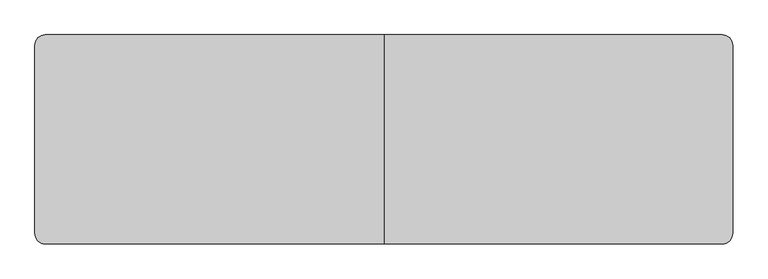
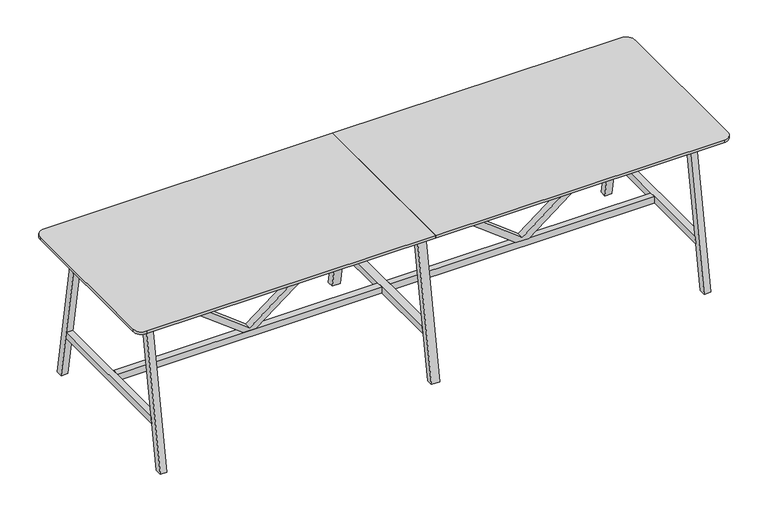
"""IFC4 building model written with IfcOpenShell, lengths in millimetres: furniture geometry, BDG_BossDesign_Tbls_AgentTables6Legs : AGE-HT-6L-4000-1200-3D."""

from ifc_helpers import new_model, si_unit, point, frame, frame_2d, origin, place, context, project, spatial, polyline, circle_curve, trimmed, segment, composite_curve, outline, extrude, source, transform, mapped, element, save


def furniture_0215ca8e(model_context):
    return source(origin(), model_context, "Body", "SweptSolid", [
        extrude(outline(polyline([(345.0, 874.0823957), (345.0, 958.4176043), (992.0, 1805.0), (1032.0, 1805.0), (1032.0, 1785.0), (365.0, 916.25), (1032.0, 47.5), (1032.0, 27.5), (992.0, 27.5), (345.0, 874.0823957)])), frame((0.0, -22.5000305, 0.0), z_axis=(0.0, 1.0, 0.0), x_axis=(0.0, 0.0, 1.0)), (0.0, 0.0, 1.0), 45.000061),
        extrude(outline(polyline([(345.0, -874.0823957), (992.0, -27.5), (1032.0, -27.5), (1032.0, -47.5), (365.0, -916.25), (1032.0, -1785.0), (1032.0, -1805.0), (992.0, -1805.0), (345.0, -958.4176043), (345.0, -874.0823957)])), frame((0.0, -22.5000305, 0.0), z_axis=(0.0, 1.0, 0.0), x_axis=(0.0, 0.0, 1.0)), (0.0, 0.0, 1.0), 45.000061),
        extrude(outline(polyline([(600.0, 0.0), (554.9999949, 0.0), (385.5, 970.0), (430.5000051, 970.0), (600.0, 0.0)])), frame((-27.5, 0.0, 0.0), z_axis=(1.0, 0.0, 0.0), x_axis=(0.0, 1.0, 0.0)), (0.0, 0.0, 1.0), 55.0),
        extrude(outline(polyline([(-600.0, 0.0), (-430.5000051, 970.0), (-385.5, 970.0), (-554.9999949, 0.0), (-600.0, 0.0)])), frame((-27.5, 0.0, 0.0), z_axis=(1.0, 0.0, 0.0), x_axis=(0.0, 1.0, 0.0)), (0.0, 0.0, 1.0), 55.0),
        extrude(outline(polyline([(502.5773161, 300.0), (-502.5773161, 300.0), (-494.7139143, 345.0), (494.7139143, 345.0), (502.5773161, 300.0)])), frame((-27.5, 0.0, 0.0), z_axis=(1.0, 0.0, 0.0), x_axis=(0.0, 1.0, 0.0)), (0.0, 0.0, 1.0), 55.0),
        extrude(outline(composite_curve([segment(polyline([(0.0, 600.0), (0.0, -600.0), (-1940.0, -600.0)]), True, "CONTINUOUS"), segment(trimmed(circle_curve(frame_2d((-1940.0, -540.0)), 60.0), [point((-1940.0, -600.0))], [point((-2000.0, -540.0))], False, "CARTESIAN"), True, "CONTINUOUS"), segment(polyline([(-2000.0, -540.0), (-2000.0, 540.0)]), True, "CONTINUOUS"), segment(trimmed(circle_curve(frame_2d((-1940.0, 540.0)), 60.0), [point((-2000.0, 540.0))], [point((-1940.0, 600.0))], False, "CARTESIAN"), True, "CONTINUOUS"), segment(polyline([(-1940.0, 600.0), (0.0, 600.0)]), True, "CONTINUOUS")], self_intersect=False)), frame((0.0, 0.0, 1032.0), z_axis=(0.0, 0.0, 1.0), x_axis=(1.0, 0.0, 0.0)), (0.0, 0.0, 1.0), 18.0),
        extrude(outline(polyline([(-494.7139143, 345.0), (494.7139143, 345.0), (502.5773161, 300.0), (-502.5773161, 300.0), (-494.7139143, 345.0)])), frame((1805.0, 0.0, 0.0), z_axis=(1.0, 0.0, 0.0), x_axis=(0.0, 1.0, 0.0)), (0.0, 0.0, 1.0), 45.0),
        extrude(outline(polyline([(600.0, 0.0), (554.9999949, 0.0), (385.5, 970.0), (430.5000051, 970.0), (600.0, 0.0)])), frame((-1850.0, 0.0, 0.0), z_axis=(1.0, 0.0, 0.0), x_axis=(0.0, 1.0, 0.0)), (0.0, 0.0, 1.0), 45.0),
        extrude(outline(polyline([(-600.0, 0.0), (-430.5000051, 970.0), (-385.5, 970.0), (-554.9999949, 0.0), (-600.0, 0.0)])), frame((-1850.0, 0.0, 0.0), z_axis=(1.0, 0.0, 0.0), x_axis=(0.0, 1.0, 0.0)), (0.0, 0.0, 1.0), 45.0),
        extrude(outline(polyline([(-494.7139143, 345.0), (494.7139143, 345.0), (502.5773161, 300.0), (-502.5773161, 300.0), (-494.7139143, 345.0)])), frame((-1850.0, 0.0, 0.0), z_axis=(1.0, 0.0, 0.0), x_axis=(0.0, 1.0, 0.0)), (0.0, 0.0, 1.0), 45.0),
        extrude(outline(polyline([(-426.6006165, 944.973938), (-404.2770691, 1032.0), (-379.5, 1032.0), (-401.8235474, 944.973938), (-426.6006165, 944.973938)])), frame((-1805.0, 0.0, 0.0), z_axis=(1.0, 0.0, 0.0), x_axis=(0.0, 1.0, 0.0)), (0.0, 0.0, 1.0), 3610.0),
        extrude(outline(polyline([(426.6006165, 944.973938), (401.8235474, 944.973938), (379.5, 1032.0), (404.2770691, 1032.0), (426.6006165, 944.973938)])), frame((-1805.0, 0.0, 0.0), z_axis=(1.0, 0.0, 0.0), x_axis=(0.0, 1.0, 0.0)), (0.0, 0.0, 1.0), 3610.0),
        extrude(outline(polyline([(599.7999878, 0.0), (554.7999827, 0.0), (385.5, 970.0), (430.5000051, 970.0), (599.7999878, 0.0)])), frame((1805.0, 0.0, 0.0), z_axis=(1.0, 0.0, 0.0), x_axis=(0.0, 1.0, 0.0)), (0.0, 0.0, 1.0), 45.0),
        extrude(outline(polyline([(-599.7999878, 0.0), (-430.5000051, 970.0), (-385.5, 970.0), (-554.7999827, 0.0), (-599.7999878, 0.0)])), frame((1805.0, 0.0, 0.0), z_axis=(1.0, 0.0, 0.0), x_axis=(0.0, 1.0, 0.0)), (0.0, 0.0, 1.0), 45.0),
        extrude(outline(polyline([(-27.5, 22.5000305), (-27.5, -22.5000305), (-1805.0, -22.5000305), (-1805.0, 22.5000305), (-27.5, 22.5000305)])), frame((0.0, 0.0, 300.0), z_axis=(0.0, 0.0, 1.0), x_axis=(1.0, 0.0, 0.0)), (0.0, 0.0, 1.0), 45.0),
        extrude(outline(polyline([(27.5, -22.5000305), (27.5, 22.5000305), (1805.0, 22.5000305), (1805.0, -22.5000305), (27.5, -22.5000305)])), frame((0.0, 0.0, 300.0), z_axis=(0.0, 0.0, 1.0), x_axis=(1.0, 0.0, 0.0)), (0.0, 0.0, 1.0), 45.0),
        extrude(outline(composite_curve([segment(trimmed(circle_curve(frame_2d((1940.0, 540.0)), 60.0), [point((1940.0, 600.0))], [point((2000.0, 540.0))], False, "CARTESIAN"), True, "CONTINUOUS"), segment(polyline([(2000.0, 540.0), (2000.0, -540.0)]), True, "CONTINUOUS"), segment(trimmed(circle_curve(frame_2d((1940.0, -540.0)), 60.0), [point((2000.0, -540.0))], [point((1940.0, -600.0))], False, "CARTESIAN"), True, "CONTINUOUS"), segment(polyline([(1940.0, -600.0), (0.0, -600.0), (0.0, 600.0), (1940.0, 600.0)]), True, "CONTINUOUS")], self_intersect=False)), frame((0.0, 0.0, 1032.0), z_axis=(0.0, 0.0, 1.0), x_axis=(1.0, 0.0, 0.0)), (0.0, 0.0, 1.0), 18.0),
    ])


if __name__ == "__main__":
    model = new_model("IFC4")
    model_context = context("Model", 3, world=origin())
    ifc_project = project(units=[si_unit("LENGTHUNIT", "METRE", prefix="MILLI")], contexts=[model_context])
    site = spatial("IfcSite", under=ifc_project)
    building = spatial("IfcBuilding", under=site)
    placement = place(None, origin())
    furniture_shape = furniture_0215ca8e(model_context)
    element("IfcFurniture", 1, ObjectType="BDG_BossDesign_Tbls_AgentTables6Legs : AGE-HT-6L-4000-1200-3D", at=placement, inside=building, context=model_context, shape_type="MappedRepresentation", body=[
        mapped(furniture_shape, transform((0.0, 0.0, 0.0), x_axis=(1.0, 0.0, 0.0), y_axis=(0.0, 1.0, 0.0), z_axis=(0.0, 0.0, 1.0))),
    ])
    save(model, "model.ifc")
